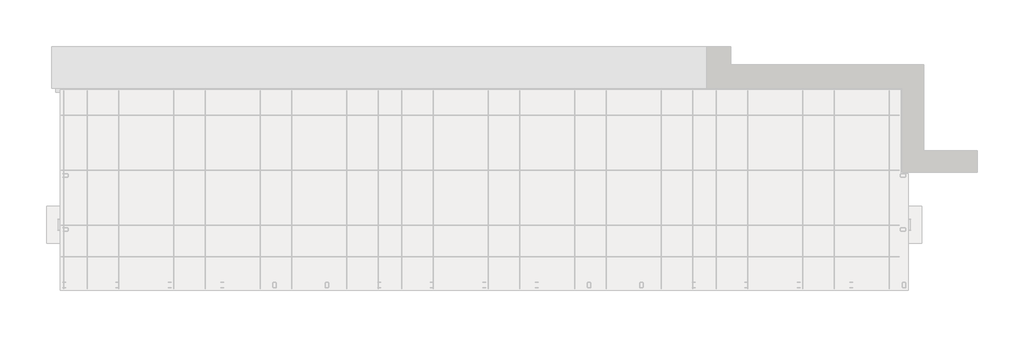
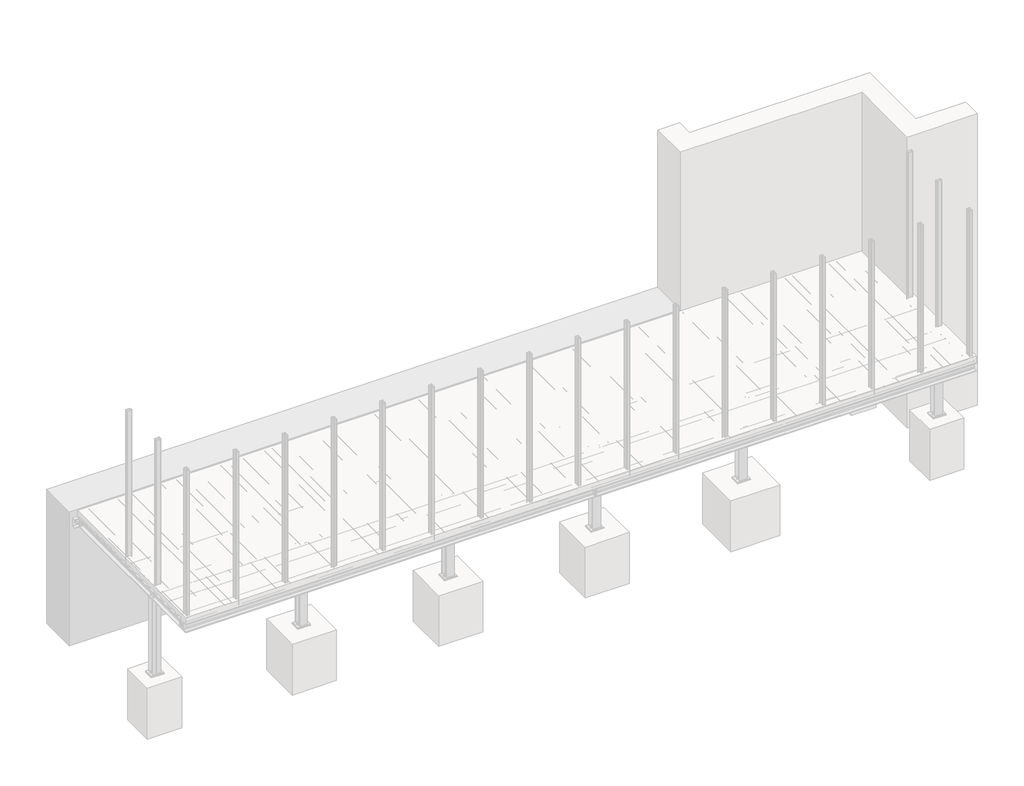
# One storey, part 29 of 36: 29 assemblies.
"""IFC4 building model written with IfcOpenShell, lengths in millimetres."""

import ifcopenshell
import ifcopenshell.guid

model = None  # the IFC model being written
_history = None  # IfcOwnerHistory: only IFC2X3 demands one
_inside = {}  # id of a spatial element -> (the spatial element, [elements in it])
_under = {}  # id of a project, library or spatial element -> (it, [spatial elements below it])
_declared = {}  # id of a project -> (the project, [libraries it declares])
_typed = {}  # id of a type object -> (the type object, [elements of that type])
_made_of = {}  # id of a material, layer set ... -> (it, [elements and type objects made of it])


def new_model(schema):
    """Start an empty IFC model of exactly this schema.

    Asked for "IFC4X3", IfcOpenShell would pick the latest addendum, in which some entities
    have other attributes; the version numbers below select the first issue.
    IFC2X3 requires an IfcOwnerHistory on every rooted entity: one is made here for all.
    """
    global model, _history
    if schema == "IFC4X3":
        model = ifcopenshell.file(schema_version=(4, 3, 0, 0))
    else:
        model = ifcopenshell.file(schema=schema)
    _inside.clear()
    _under.clear()
    _declared.clear()
    _typed.clear()
    _made_of.clear()
    _history = None
    if model.schema == "IFC2X3":
        org = make("IfcOrganization", Name="unknown")
        user = make(
            "IfcPersonAndOrganization",
            ThePerson=make("IfcPerson", FamilyName="unknown"),
            TheOrganization=org,
        )
        app = make(
            "IfcApplication",
            ApplicationDeveloper=org,
            Version="unknown",
            ApplicationFullName="unknown",
            ApplicationIdentifier="unknown",
        )
        _history = make(
            "IfcOwnerHistory",
            OwningUser=user,
            OwningApplication=app,
            ChangeAction="ADDED",
            CreationDate=0,
        )
    return model


def make(cls, **values):
    """One entity of the class cls with the attributes given. An attribute that is None is left unset."""
    return model.create_entity(
        cls, **{name: value for name, value in values.items() if value is not None}
    )


def rooted(cls, **values):
    """An entity with a GlobalId (a new one), such as an element, a storey or a relation."""
    return make(cls, GlobalId=ifcopenshell.guid.new(), OwnerHistory=_history, **values)


def si_unit(unit_type, name, prefix=None):
    """IfcSIUnit, for example si_unit("LENGTHUNIT", "METRE", prefix="MILLI")."""
    return make("IfcSIUnit", UnitType=unit_type, Prefix=prefix, Name=name)


def assignment(units):
    """IfcUnitAssignment: the units of a project."""
    return None if units is None else make("IfcUnitAssignment", Units=units)


def point(xyz):
    """IfcCartesianPoint."""
    return None if xyz is None else make("IfcCartesianPoint", Coordinates=xyz)


def direction(xyz):
    """IfcDirection."""
    return None if xyz is None else make("IfcDirection", DirectionRatios=xyz)


def frame(location, z_axis=None, x_axis=None):
    """IfcAxis2Placement3D, a coordinate frame: its origin and axes. An axis left out is left unset."""
    return make(
        "IfcAxis2Placement3D",
        Location=point(location),
        Axis=direction(z_axis),
        RefDirection=direction(x_axis),
    )


def frame_2d(location, x_axis=None):
    """IfcAxis2Placement2D, a coordinate frame in the plane: its origin and x axis."""
    return make(
        "IfcAxis2Placement2D", Location=point(location), RefDirection=direction(x_axis)
    )


def origin():
    """The frame at (0, 0, 0) with its axes left unset."""
    return frame((0.0, 0.0, 0.0))


def place(relative_to, where):
    """IfcLocalPlacement: puts the frame where relative to a parent placement (None: the world)."""
    return make(
        "IfcLocalPlacement", PlacementRelTo=relative_to, RelativePlacement=where
    )


def context(
    kind, dimensions, precision=None, world=None, true_north=None, identifier=None
):
    """IfcGeometricRepresentationContext, for example the 3D "Model" context."""
    return make(
        "IfcGeometricRepresentationContext",
        ContextIdentifier=identifier,
        ContextType=kind,
        CoordinateSpaceDimension=dimensions,
        Precision=precision,
        WorldCoordinateSystem=world,
        TrueNorth=true_north,
    )


def project(units=None, contexts=None):
    """IfcProject with its units and contexts."""
    return rooted(
        "IfcProject",
        Name="project",
        RepresentationContexts=contexts,
        UnitsInContext=assignment(units),
    )


def spatial(cls, under=None, at=None, **own):
    """A site, building, storey or space (cls), placed at a placement, below another one or the project."""
    s = rooted(cls, ObjectPlacement=at, **own)
    if under is not None:
        _under.setdefault(under.id(), (under, []))[1].append(s)
    return s


def polyline(points):
    """IfcPolyline through the points."""
    return make("IfcPolyline", Points=[point(p) for p in points])


def circle_curve(where, radius):
    """IfcCircle in the frame where."""
    return make("IfcCircle", Position=where, Radius=radius)


def trimmed(basis, trim1, trim2, sense, master):
    """IfcTrimmedCurve: the piece of a basis curve between two trims."""
    return make(
        "IfcTrimmedCurve",
        BasisCurve=basis,
        Trim1=trim1,
        Trim2=trim2,
        SenseAgreement=sense,
        MasterRepresentation=master,
    )


def segment(curve, same_sense, transition):
    """IfcCompositeCurveSegment."""
    return make(
        "IfcCompositeCurveSegment",
        Transition=transition,
        SameSense=same_sense,
        ParentCurve=curve,
    )


def composite_curve(segments, self_intersect=None):
    """IfcCompositeCurve: segments joined end to end."""
    return make("IfcCompositeCurve", Segments=segments, SelfIntersect=self_intersect)


def outline(outer, holes=None, kind="AREA"):
    """IfcArbitraryClosedProfileDef: a profile drawn as a closed curve; with holes, ...WithVoids."""
    if holes is None:
        return make("IfcArbitraryClosedProfileDef", ProfileType=kind, OuterCurve=outer)
    return make(
        "IfcArbitraryProfileDefWithVoids",
        ProfileType=kind,
        OuterCurve=outer,
        InnerCurves=holes,
    )


def extrude(swept, where, along, depth):
    """IfcExtrudedAreaSolid: the profile swept, set in the frame where, extruded along a direction by depth."""
    return make(
        "IfcExtrudedAreaSolid",
        SweptArea=swept,
        Position=where,
        ExtrudedDirection=direction(along),
        Depth=depth,
    )


def faces_of(points, faces, orient=None, outer=None):
    """IfcFace entities. A face is a list of loops; a loop is a list of indices into points, from 0.

    orient and outer hold one flag for each loop. By default every Orientation is true, the
    first loop of a face is its IfcFaceOuterBound and the others are IfcFaceBound.
    """
    made = []
    for i, loops in enumerate(faces):
        bounds = []
        for j, loop in enumerate(loops):
            is_outer = j == 0 if outer is None else outer[i][j]
            bounds.append(
                make(
                    "IfcFaceOuterBound" if is_outer else "IfcFaceBound",
                    Bound=make("IfcPolyLoop", Polygon=[points[k] for k in loop]),
                    Orientation=True if orient is None else orient[i][j],
                )
            )
        made.append(make("IfcFace", Bounds=bounds))
    return made


def faceted_brep(points, faces, orient=None, outer=None, voids=None):
    """IfcFacetedBrep: a solid bounded by flat faces; with voids (closed shells), ...WithVoids."""
    shared = [point(p) for p in points]
    hull = make("IfcClosedShell", CfsFaces=faces_of(shared, faces, orient, outer))
    if voids is None:
        return make("IfcFacetedBrep", Outer=hull)
    return make(
        "IfcFacetedBrepWithVoids",
        Outer=hull,
        Voids=[
            make(cls, CfsFaces=faces_of(shared, fs, o, b)) for cls, fs, o, b in voids
        ],
    )


def shape(context_of_items, identifier, shape_type, items):
    """IfcShapeRepresentation: the items that make up one representation, for example the "Body"."""
    return make(
        "IfcShapeRepresentation",
        ContextOfItems=context_of_items,
        RepresentationIdentifier=identifier,
        RepresentationType=shape_type,
        Items=items,
    )


def made_of(thing, what):
    """Note that an element or type object is made of a material, layer set ...; save() writes the relation."""
    if what is not None:
        _made_of.setdefault(what.id(), (what, []))[1].append(thing)
    return thing


def element(
    cls,
    number,
    at=None,
    inside=None,
    cuts=None,
    type_object=None,
    material=None,
    context=None,
    identifier="Body",
    shape_type=None,
    held_by="IfcProductDefinitionShape",
    body=None,
    shapes=None,
    **own,
):
    """One element of the class cls, such as IfcWall. Its Tag is "e" and its number.

    at: its placement. inside: the storey or other place that contains it. cuts: it is an
    opening in that element (IfcRelVoidsElement). A single representation is given by context,
    identifier, shape_type and body (its items); several are given by shapes. held_by: the class
    of the entity that holds the representations. save() writes the other relations.
    """
    e = rooted(cls, Tag="e%d" % number, ObjectPlacement=at, **own)
    if body is not None:
        shapes = [shape(context, identifier, shape_type, body)]
    if shapes is not None:
        e.Representation = make(held_by, Representations=shapes)
    if inside is not None:
        _inside.setdefault(inside.id(), (inside, []))[1].append(e)
    if cuts is not None:
        rooted(
            "IfcRelVoidsElement", RelatingBuildingElement=cuts, RelatedOpeningElement=e
        )
    if type_object is not None:
        _typed.setdefault(type_object.id(), (type_object, []))[1].append(e)
    return made_of(e, material)


def aggregate(whole, parts):
    """IfcRelAggregates: a whole, such as a stair, and the parts it consists of."""
    return rooted("IfcRelAggregates", RelatingObject=whole, RelatedObjects=parts)


def save(model, path):
    """Write the relations noted so far, then the file.

    IfcRelAggregates (storeys below a building ...), IfcRelContainedInSpatialStructure (elements
    in a storey), IfcRelDefinesByType, IfcRelAssociatesMaterial and IfcRelDeclares: one each for
    every whole, place, type object, material and project.
    """
    for whole, parts in _under.values():
        aggregate(whole, parts)
    for where, things in _inside.values():
        rooted(
            "IfcRelContainedInSpatialStructure",
            RelatedElements=things,
            RelatingStructure=where,
        )
    for kind, things in _typed.values():
        rooted("IfcRelDefinesByType", RelatedObjects=things, RelatingType=kind)
    for what, things in _made_of.values():
        rooted("IfcRelAssociatesMaterial", RelatedObjects=things, RelatingMaterial=what)
    for by, libraries in _declared.values():
        rooted("IfcRelDeclares", RelatingContext=by, RelatedDefinitions=libraries)
    model.write(path)


model = new_model("IFC4")

# Units and contexts
model_context = context("Model", 3, world=origin())
ifc_project = project(units=[si_unit("LENGTHUNIT", "METRE", prefix="MILLI")], contexts=[model_context])

# Site, building, storey
site = spatial("IfcSite", under=ifc_project)
building = spatial("IfcBuilding", under=site)
storey = spatial("IfcBuildingStorey", under=building, Name="Základy", Elevation=-1200.0)

# Assemblies
placement = place(None, origin())
element("IfcElementAssembly", 1, at=placement, inside=storey, context=model_context, shape_type="SweptSolid", body=[
    extrude(outline(composite_curve([segment(polyline([(11073.6, 60.0), (11026.4, 60.0)]), True, "CONTINUOUS"), segment(trimmed(circle_curve(frame_2d((11026.4, 66.4)), 6.4), [point((11026.4, 60.0))], [point((11020.0, 66.4))], False, "CARTESIAN"), True, "CONTINUOUS"), segment(polyline([(11020.0, 66.4), (11020.0, 153.6)]), True, "CONTINUOUS"), segment(trimmed(circle_curve(frame_2d((11026.4, 153.6)), 6.4), [point((11020.0, 153.6))], [point((11026.4, 160.0))], False, "CARTESIAN"), True, "CONTINUOUS"), segment(polyline([(11026.4, 160.0), (11073.6, 160.0)]), True, "CONTINUOUS"), segment(trimmed(circle_curve(frame_2d((11073.6, 153.6)), 6.4), [point((11073.6, 160.0))], [point((11080.0, 153.6))], False, "CARTESIAN"), True, "CONTINUOUS"), segment(polyline([(11080.0, 153.6), (11080.0, 66.4)]), True, "CONTINUOUS"), segment(trimmed(circle_curve(frame_2d((11073.6, 66.4)), 6.4), [point((11080.0, 66.4))], [point((11073.6, 60.0))], False, "CARTESIAN"), True, "CONTINUOUS")], self_intersect=False), holes=[composite_curve([segment(trimmed(circle_curve(frame_2d((11073.6, 66.4)), 3.2), [point((11073.6, 63.2))], [point((11076.8, 66.4))], True, "CARTESIAN"), True, "CONTINUOUS"), segment(polyline([(11076.8, 66.4), (11076.8, 153.6)]), True, "CONTINUOUS"), segment(trimmed(circle_curve(frame_2d((11073.6, 153.6)), 3.2), [point((11076.8, 153.6))], [point((11073.6, 156.8))], True, "CARTESIAN"), True, "CONTINUOUS"), segment(polyline([(11073.6, 156.8), (11026.4, 156.8)]), True, "CONTINUOUS"), segment(trimmed(circle_curve(frame_2d((11026.4, 153.6)), 3.2), [point((11026.4, 156.8))], [point((11023.2, 153.6))], True, "CARTESIAN"), True, "CONTINUOUS"), segment(polyline([(11023.2, 153.6), (11023.2, 66.4)]), True, "CONTINUOUS"), segment(trimmed(circle_curve(frame_2d((11026.4, 66.4)), 3.2), [point((11023.2, 66.4))], [point((11026.4, 63.2))], True, "CARTESIAN"), True, "CONTINUOUS"), segment(polyline([(11026.4, 63.2), (11073.6, 63.2)]), True, "CONTINUOUS")], self_intersect=False)]), frame((0.0, 0.0, -160.0), z_axis=(0.0, 0.0, 1.0), x_axis=(1.0, 0.0, 0.0)), (0.0, 0.0, 1.0), 3320.0),
])
element("IfcElementAssembly", 2, at=placement, inside=storey, context=model_context, shape_type="SweptSolid", body=[
    extrude(outline(composite_curve([segment(polyline([(10073.6, 60.0), (10026.4, 60.0)]), True, "CONTINUOUS"), segment(trimmed(circle_curve(frame_2d((10026.4, 66.4)), 6.4), [point((10026.4, 60.0))], [point((10020.0, 66.4))], False, "CARTESIAN"), True, "CONTINUOUS"), segment(polyline([(10020.0, 66.4), (10020.0, 153.6)]), True, "CONTINUOUS"), segment(trimmed(circle_curve(frame_2d((10026.4, 153.6)), 6.4), [point((10020.0, 153.6))], [point((10026.4, 160.0))], False, "CARTESIAN"), True, "CONTINUOUS"), segment(polyline([(10026.4, 160.0), (10073.6, 160.0)]), True, "CONTINUOUS"), segment(trimmed(circle_curve(frame_2d((10073.6, 153.6)), 6.4), [point((10073.6, 160.0))], [point((10080.0, 153.6))], False, "CARTESIAN"), True, "CONTINUOUS"), segment(polyline([(10080.0, 153.6), (10080.0, 66.4)]), True, "CONTINUOUS"), segment(trimmed(circle_curve(frame_2d((10073.6, 66.4)), 6.4), [point((10080.0, 66.4))], [point((10073.6, 60.0))], False, "CARTESIAN"), True, "CONTINUOUS")], self_intersect=False), holes=[composite_curve([segment(trimmed(circle_curve(frame_2d((10073.6, 66.4)), 3.2), [point((10073.6, 63.2))], [point((10076.8, 66.4))], True, "CARTESIAN"), True, "CONTINUOUS"), segment(polyline([(10076.8, 66.4), (10076.8, 153.6)]), True, "CONTINUOUS"), segment(trimmed(circle_curve(frame_2d((10073.6, 153.6)), 3.2), [point((10076.8, 153.6))], [point((10073.6, 156.8))], True, "CARTESIAN"), True, "CONTINUOUS"), segment(polyline([(10073.6, 156.8), (10026.4, 156.8)]), True, "CONTINUOUS"), segment(trimmed(circle_curve(frame_2d((10026.4, 153.6)), 3.2), [point((10026.4, 156.8))], [point((10023.2, 153.6))], True, "CARTESIAN"), True, "CONTINUOUS"), segment(polyline([(10023.2, 153.6), (10023.2, 66.4)]), True, "CONTINUOUS"), segment(trimmed(circle_curve(frame_2d((10026.4, 66.4)), 3.2), [point((10023.2, 66.4))], [point((10026.4, 63.2))], True, "CARTESIAN"), True, "CONTINUOUS"), segment(polyline([(10026.4, 63.2), (10073.6, 63.2)]), True, "CONTINUOUS")], self_intersect=False)]), frame((0.0, 0.0, -160.0), z_axis=(0.0, 0.0, 1.0), x_axis=(1.0, 0.0, 0.0)), (0.0, 0.0, 1.0), 3320.0),
])
element("IfcElementAssembly", 3, at=placement, inside=storey, context=model_context, shape_type="SweptSolid", body=[
    extrude(outline(composite_curve([segment(polyline([(1200.0, -193.0), (1320.0, -193.0), (1320.0, -201.0), (1274.5, -201.0)]), True, "CONTINUOUS"), segment(trimmed(circle_curve(frame_2d((1274.5, -213.0)), 12.0), [point((1274.5, -201.0))], [point((1262.5, -213.0))], True, "CARTESIAN"), True, "CONTINUOUS"), segment(polyline([(1262.5, -213.0), (1262.5, -287.0)]), True, "CONTINUOUS"), segment(trimmed(circle_curve(frame_2d((1274.5, -287.0)), 12.0), [point((1262.5, -287.0))], [point((1274.5, -299.0))], True, "CARTESIAN"), True, "CONTINUOUS"), segment(polyline([(1274.5, -299.0), (1320.0, -299.0), (1320.0, -307.0), (1200.0, -307.0), (1200.0, -299.0), (1245.5, -299.0)]), True, "CONTINUOUS"), segment(trimmed(circle_curve(frame_2d((1245.5, -287.0)), 12.0), [point((1245.5, -299.0))], [point((1257.5, -287.0))], True, "CARTESIAN"), True, "CONTINUOUS"), segment(polyline([(1257.5, -287.0), (1257.5, -213.0)]), True, "CONTINUOUS"), segment(trimmed(circle_curve(frame_2d((1245.5, -213.0)), 12.0), [point((1257.5, -213.0))], [point((1245.5, -201.0))], True, "CARTESIAN"), True, "CONTINUOUS"), segment(polyline([(1245.5, -201.0), (1200.0, -201.0), (1200.0, -193.0)]), True, "CONTINUOUS")], self_intersect=False)), frame((9160.0, 0.0, 0.0), z_axis=(1.0, 0.0, 0.0), x_axis=(0.0, 1.0, 0.0)), (0.0, 0.0, 1.0), 2780.0),
    extrude(outline(polyline([(11940.0, 1200.0), (11940.0, 1320.0), (11950.0, 1320.0), (11950.0, 1200.0), (11940.0, 1200.0)])), frame((0.0, 0.0, -299.0), z_axis=(0.0, 0.0, 1.0), x_axis=(1.0, 0.0, 0.0)), (0.0, 0.0, 1.0), 98.0),
    extrude(outline(polyline([(9150.0, 1200.0), (9150.0, 1320.0), (9160.0, 1320.0), (9160.0, 1200.0), (9150.0, 1200.0)])), frame((0.0, 0.0, -299.0), z_axis=(0.0, 0.0, 1.0), x_axis=(1.0, 0.0, 0.0)), (0.0, 0.0, 1.0), 98.0),
])
element("IfcElementAssembly", 4, at=placement, inside=storey, context=model_context, shape_type="SweptSolid", body=[
    extrude(outline(composite_curve([segment(polyline([(9130.0, 1184.0), (8970.0, 1184.0), (8970.0, 1193.0), (9032.0, 1193.0)]), True, "CONTINUOUS"), segment(trimmed(circle_curve(frame_2d((9032.0, 1208.0)), 15.0), [point((9032.0, 1193.0))], [point((9047.0, 1208.0))], True, "CARTESIAN"), True, "CONTINUOUS"), segment(polyline([(9047.0, 1208.0), (9047.0, 1312.0)]), True, "CONTINUOUS"), segment(trimmed(circle_curve(frame_2d((9032.0, 1312.0)), 15.0), [point((9047.0, 1312.0))], [point((9032.0, 1327.0))], True, "CARTESIAN"), True, "CONTINUOUS"), segment(polyline([(9032.0, 1327.0), (8970.0, 1327.0), (8970.0, 1336.0), (9130.0, 1336.0), (9130.0, 1327.0), (9068.0, 1327.0)]), True, "CONTINUOUS"), segment(trimmed(circle_curve(frame_2d((9068.0, 1312.0)), 15.0), [point((9068.0, 1327.0))], [point((9053.0, 1312.0))], True, "CARTESIAN"), True, "CONTINUOUS"), segment(polyline([(9053.0, 1312.0), (9053.0, 1208.0)]), True, "CONTINUOUS"), segment(trimmed(circle_curve(frame_2d((9068.0, 1208.0)), 15.0), [point((9053.0, 1208.0))], [point((9068.0, 1193.0))], True, "CARTESIAN"), True, "CONTINUOUS"), segment(polyline([(9068.0, 1193.0), (9130.0, 1193.0), (9130.0, 1184.0)]), True, "CONTINUOUS")], self_intersect=False)), frame((0.0, 0.0, -1975.0), z_axis=(0.0, 0.0, 1.0), x_axis=(1.0, 0.0, 0.0)), (0.0, 0.0, 1.0), 1625.0),
    extrude(outline(polyline([(9175.0, 1356.0), (9175.0, 1164.0), (8925.0, 1164.0), (8925.0, 1356.0), (9175.0, 1356.0)])), frame((0.0, 0.0, -1990.0), z_axis=(0.0, 0.0, 1.0), x_axis=(1.0, 0.0, 0.0)), (0.0, 0.0, 1.0), 15.0),
    extrude(outline(polyline([(9140.0, 1346.0), (9140.0, 1174.0), (8960.0, 1174.0), (8960.0, 1346.0), (9140.0, 1346.0)])), frame((0.0, 0.0, -350.0), z_axis=(0.0, 0.0, 1.0), x_axis=(1.0, 0.0, 0.0)), (0.0, 0.0, 1.0), 10.0),
    extrude(outline(polyline([(8982.7364934, 1260.0), (8978.8682467, 1253.3000002), (8971.1317533, 1253.3000002), (8967.2635066, 1260.0), (8971.1317533, 1266.6999998), (8978.8682467, 1266.6999998), (8982.7364934, 1260.0)])), frame((0.0, 0.0, -2122.0), z_axis=(0.0, 0.0, 1.0), x_axis=(1.0, 0.0, 0.0)), (0.0, 0.0, 1.0), 132.0),
    extrude(outline(composite_curve([segment(trimmed(circle_curve(frame_2d((8975.0, 1260.0)), 8.0), [point((8983.0, 1260.0))], [point((8967.0, 1260.0))], False, "CARTESIAN"), True, "CONTINUOUS"), segment(trimmed(circle_curve(frame_2d((8975.0, 1260.0)), 8.0), [point((8967.0, 1260.0))], [point((8983.0, 1260.0))], False, "CARTESIAN"), True, "CONTINUOUS")], self_intersect=False)), frame((0.0, 0.0, -1990.0), z_axis=(0.0, 0.0, 1.0), x_axis=(1.0, 0.0, 0.0)), (0.0, 0.0, 1.0), 58.0),
    extrude(outline(composite_curve([segment(trimmed(circle_curve(frame_2d((8975.0, 1260.0)), 15.0), [point((8990.0, 1260.0))], [point((8960.0, 1260.0))], False, "CARTESIAN"), True, "CONTINUOUS"), segment(trimmed(circle_curve(frame_2d((8975.0, 1260.0)), 15.0), [point((8960.0, 1260.0))], [point((8990.0, 1260.0))], False, "CARTESIAN"), True, "CONTINUOUS")], self_intersect=False)), frame((0.0, 0.0, -1975.0), z_axis=(0.0, 0.0, 1.0), x_axis=(1.0, 0.0, 0.0)), (0.0, 0.0, 1.0), 3.0),
    extrude(outline(polyline([(8990.4441197, 1260.0), (8982.7220599, 1246.625), (8967.2779401, 1246.625), (8959.5558803, 1260.0), (8967.2779401, 1273.375), (8982.7220599, 1273.375), (8990.4441197, 1260.0)])), frame((0.0, 0.0, -1972.0), z_axis=(0.0, 0.0, 1.0), x_axis=(1.0, 0.0, 0.0)), (0.0, 0.0, 1.0), 13.0),
    extrude(outline(composite_curve([segment(trimmed(circle_curve(frame_2d((8975.0, 1260.0)), 9.0), [point((8984.0, 1260.0))], [point((8966.0, 1260.0))], False, "CARTESIAN"), True, "CONTINUOUS"), segment(trimmed(circle_curve(frame_2d((8975.0, 1260.0)), 9.0), [point((8966.0, 1260.0))], [point((8984.0, 1260.0))], False, "CARTESIAN"), True, "CONTINUOUS")], self_intersect=False)), frame((0.0, 0.0, -1990.0), z_axis=(0.0, 0.0, 1.0), x_axis=(1.0, 0.0, 0.0)), (0.0, 0.0, 1.0), 15.1),
    extrude(outline(polyline([(9132.7364934, 1260.0), (9128.8682467, 1253.3000002), (9121.1317533, 1253.3000002), (9117.2635066, 1260.0), (9121.1317533, 1266.6999998), (9128.8682467, 1266.6999998), (9132.7364934, 1260.0)])), frame((0.0, 0.0, -2122.0), z_axis=(0.0, 0.0, 1.0), x_axis=(1.0, 0.0, 0.0)), (0.0, 0.0, 1.0), 132.0),
    extrude(outline(composite_curve([segment(trimmed(circle_curve(frame_2d((9125.0, 1260.0)), 8.0), [point((9133.0, 1260.0))], [point((9117.0, 1260.0))], False, "CARTESIAN"), True, "CONTINUOUS"), segment(trimmed(circle_curve(frame_2d((9125.0, 1260.0)), 8.0), [point((9117.0, 1260.0))], [point((9133.0, 1260.0))], False, "CARTESIAN"), True, "CONTINUOUS")], self_intersect=False)), frame((0.0, 0.0, -1990.0), z_axis=(0.0, 0.0, 1.0), x_axis=(1.0, 0.0, 0.0)), (0.0, 0.0, 1.0), 58.0),
    extrude(outline(composite_curve([segment(trimmed(circle_curve(frame_2d((9125.0, 1260.0)), 15.0), [point((9140.0, 1260.0))], [point((9110.0, 1260.0))], False, "CARTESIAN"), True, "CONTINUOUS"), segment(trimmed(circle_curve(frame_2d((9125.0, 1260.0)), 15.0), [point((9110.0, 1260.0))], [point((9140.0, 1260.0))], False, "CARTESIAN"), True, "CONTINUOUS")], self_intersect=False)), frame((0.0, 0.0, -1975.0), z_axis=(0.0, 0.0, 1.0), x_axis=(1.0, 0.0, 0.0)), (0.0, 0.0, 1.0), 3.0),
    extrude(outline(polyline([(9140.4441197, 1260.0), (9132.7220599, 1246.625), (9117.2779401, 1246.625), (9109.5558803, 1260.0), (9117.2779401, 1273.375), (9132.7220599, 1273.375), (9140.4441197, 1260.0)])), frame((0.0, 0.0, -1972.0), z_axis=(0.0, 0.0, 1.0), x_axis=(1.0, 0.0, 0.0)), (0.0, 0.0, 1.0), 13.0),
    extrude(outline(composite_curve([segment(trimmed(circle_curve(frame_2d((9125.0, 1260.0)), 9.0), [point((9134.0, 1260.0))], [point((9116.0, 1260.0))], False, "CARTESIAN"), True, "CONTINUOUS"), segment(trimmed(circle_curve(frame_2d((9125.0, 1260.0)), 9.0), [point((9116.0, 1260.0))], [point((9134.0, 1260.0))], False, "CARTESIAN"), True, "CONTINUOUS")], self_intersect=False)), frame((0.0, 0.0, -1990.0), z_axis=(0.0, 0.0, 1.0), x_axis=(1.0, 0.0, 0.0)), (0.0, 0.0, 1.0), 15.1),
    extrude(outline(composite_curve([segment(trimmed(circle_curve(frame_2d((9000.0, 1220.0)), 6.5), [point((9006.5, 1220.0))], [point((8993.5, 1220.0))], False, "CARTESIAN"), True, "CONTINUOUS"), segment(trimmed(circle_curve(frame_2d((9000.0, 1220.0)), 6.5), [point((8993.5, 1220.0))], [point((9006.5, 1220.0))], False, "CARTESIAN"), True, "CONTINUOUS")], self_intersect=False)), frame((0.0, 0.0, -350.0), z_axis=(0.0, 0.0, 1.0), x_axis=(1.0, 0.0, 0.0)), (0.0, 0.0, 1.0), 10.1),
    extrude(outline(polyline([(9010.3923048, 1220.0), (9005.1961524, 1211.0), (8994.8038476, 1211.0), (8989.6076952, 1220.0), (8994.8038476, 1229.0), (9005.1961524, 1229.0), (9010.3923048, 1220.0)])), frame((0.0, 0.0, -323.5), z_axis=(0.0, 0.0, 1.0), x_axis=(1.0, 0.0, 0.0)), (0.0, 0.0, 1.0), 7.5),
    extrude(outline(composite_curve([segment(trimmed(circle_curve(frame_2d((9000.0, 1220.0)), 6.0), [point((9006.0, 1220.0))], [point((8994.0, 1220.0))], False, "CARTESIAN"), True, "CONTINUOUS"), segment(trimmed(circle_curve(frame_2d((9000.0, 1220.0)), 6.0), [point((8994.0, 1220.0))], [point((9006.0, 1220.0))], False, "CARTESIAN"), True, "CONTINUOUS")], self_intersect=False)), frame((0.0, 0.0, -368.5), z_axis=(0.0, 0.0, 1.0), x_axis=(1.0, 0.0, 0.0)), (0.0, 0.0, 1.0), 45.0),
    extrude(outline(composite_curve([segment(trimmed(circle_curve(frame_2d((9000.0, 1220.0)), 12.0), [point((9012.0, 1220.0))], [point((8988.0, 1220.0))], False, "CARTESIAN"), True, "CONTINUOUS"), segment(trimmed(circle_curve(frame_2d((9000.0, 1220.0)), 12.0), [point((8988.0, 1220.0))], [point((9012.0, 1220.0))], False, "CARTESIAN"), True, "CONTINUOUS")], self_intersect=False)), frame((0.0, 0.0, -326.0), z_axis=(0.0, 0.0, 1.0), x_axis=(1.0, 0.0, 0.0)), (0.0, 0.0, 1.0), 2.5),
    extrude(outline(composite_curve([segment(trimmed(circle_curve(frame_2d((9000.0, 1220.0)), 12.0), [point((9012.0, 1220.0))], [point((8988.0, 1220.0))], False, "CARTESIAN"), True, "CONTINUOUS"), segment(trimmed(circle_curve(frame_2d((9000.0, 1220.0)), 12.0), [point((8988.0, 1220.0))], [point((9012.0, 1220.0))], False, "CARTESIAN"), True, "CONTINUOUS")], self_intersect=False)), frame((0.0, 0.0, -352.5), z_axis=(0.0, 0.0, 1.0), x_axis=(1.0, 0.0, 0.0)), (0.0, 0.0, 1.0), 2.5),
    extrude(outline(polyline([(9010.9696551, 1220.0), (9005.4848276, 1210.5), (8994.5151724, 1210.5), (8989.0303449, 1220.0), (8994.5151724, 1229.5), (9005.4848276, 1229.5), (9010.9696551, 1220.0)])), frame((0.0, 0.0, -362.5), z_axis=(0.0, 0.0, 1.0), x_axis=(1.0, 0.0, 0.0)), (0.0, 0.0, 1.0), 10.0),
    extrude(outline(composite_curve([segment(trimmed(circle_curve(frame_2d((9000.0, 1220.0)), 6.5), [point((9006.5, 1220.0))], [point((8993.5, 1220.0))], False, "CARTESIAN"), True, "CONTINUOUS"), segment(trimmed(circle_curve(frame_2d((9000.0, 1220.0)), 6.5), [point((8993.5, 1220.0))], [point((9006.5, 1220.0))], False, "CARTESIAN"), True, "CONTINUOUS")], self_intersect=False)), frame((0.0, 0.0, -340.1), z_axis=(0.0, 0.0, 1.0), x_axis=(1.0, 0.0, 0.0)), (0.0, 0.0, 1.0), 14.0),
    extrude(outline(composite_curve([segment(trimmed(circle_curve(frame_2d((9100.0, 1220.0)), 6.5), [point((9106.5, 1220.0))], [point((9093.5, 1220.0))], False, "CARTESIAN"), True, "CONTINUOUS"), segment(trimmed(circle_curve(frame_2d((9100.0, 1220.0)), 6.5), [point((9093.5, 1220.0))], [point((9106.5, 1220.0))], False, "CARTESIAN"), True, "CONTINUOUS")], self_intersect=False)), frame((0.0, 0.0, -350.0), z_axis=(0.0, 0.0, 1.0), x_axis=(1.0, 0.0, 0.0)), (0.0, 0.0, 1.0), 10.1),
    extrude(outline(polyline([(9110.3923048, 1220.0), (9105.1961524, 1211.0), (9094.8038476, 1211.0), (9089.6076952, 1220.0), (9094.8038476, 1229.0), (9105.1961524, 1229.0), (9110.3923048, 1220.0)])), frame((0.0, 0.0, -323.5), z_axis=(0.0, 0.0, 1.0), x_axis=(1.0, 0.0, 0.0)), (0.0, 0.0, 1.0), 7.5),
    extrude(outline(composite_curve([segment(trimmed(circle_curve(frame_2d((9100.0, 1220.0)), 6.0), [point((9106.0, 1220.0))], [point((9094.0, 1220.0))], False, "CARTESIAN"), True, "CONTINUOUS"), segment(trimmed(circle_curve(frame_2d((9100.0, 1220.0)), 6.0), [point((9094.0, 1220.0))], [point((9106.0, 1220.0))], False, "CARTESIAN"), True, "CONTINUOUS")], self_intersect=False)), frame((0.0, 0.0, -368.5), z_axis=(0.0, 0.0, 1.0), x_axis=(1.0, 0.0, 0.0)), (0.0, 0.0, 1.0), 45.0),
    extrude(outline(composite_curve([segment(trimmed(circle_curve(frame_2d((9100.0, 1220.0)), 12.0), [point((9112.0, 1220.0))], [point((9088.0, 1220.0))], False, "CARTESIAN"), True, "CONTINUOUS"), segment(trimmed(circle_curve(frame_2d((9100.0, 1220.0)), 12.0), [point((9088.0, 1220.0))], [point((9112.0, 1220.0))], False, "CARTESIAN"), True, "CONTINUOUS")], self_intersect=False)), frame((0.0, 0.0, -326.0), z_axis=(0.0, 0.0, 1.0), x_axis=(1.0, 0.0, 0.0)), (0.0, 0.0, 1.0), 2.5),
    extrude(outline(composite_curve([segment(trimmed(circle_curve(frame_2d((9100.0, 1220.0)), 12.0), [point((9112.0, 1220.0))], [point((9088.0, 1220.0))], False, "CARTESIAN"), True, "CONTINUOUS"), segment(trimmed(circle_curve(frame_2d((9100.0, 1220.0)), 12.0), [point((9088.0, 1220.0))], [point((9112.0, 1220.0))], False, "CARTESIAN"), True, "CONTINUOUS")], self_intersect=False)), frame((0.0, 0.0, -352.5), z_axis=(0.0, 0.0, 1.0), x_axis=(1.0, 0.0, 0.0)), (0.0, 0.0, 1.0), 2.5),
    extrude(outline(polyline([(9110.9696551, 1220.0), (9105.4848276, 1210.5), (9094.5151724, 1210.5), (9089.0303449, 1220.0), (9094.5151724, 1229.5), (9105.4848276, 1229.5), (9110.9696551, 1220.0)])), frame((0.0, 0.0, -362.5), z_axis=(0.0, 0.0, 1.0), x_axis=(1.0, 0.0, 0.0)), (0.0, 0.0, 1.0), 10.0),
    extrude(outline(composite_curve([segment(trimmed(circle_curve(frame_2d((9100.0, 1220.0)), 6.5), [point((9106.5, 1220.0))], [point((9093.5, 1220.0))], False, "CARTESIAN"), True, "CONTINUOUS"), segment(trimmed(circle_curve(frame_2d((9100.0, 1220.0)), 6.5), [point((9093.5, 1220.0))], [point((9106.5, 1220.0))], False, "CARTESIAN"), True, "CONTINUOUS")], self_intersect=False)), frame((0.0, 0.0, -340.1), z_axis=(0.0, 0.0, 1.0), x_axis=(1.0, 0.0, 0.0)), (0.0, 0.0, 1.0), 14.0),
    extrude(outline(composite_curve([segment(trimmed(circle_curve(frame_2d((9000.0, 1300.0)), 6.5), [point((9006.5, 1300.0))], [point((8993.5, 1300.0))], False, "CARTESIAN"), True, "CONTINUOUS"), segment(trimmed(circle_curve(frame_2d((9000.0, 1300.0)), 6.5), [point((8993.5, 1300.0))], [point((9006.5, 1300.0))], False, "CARTESIAN"), True, "CONTINUOUS")], self_intersect=False)), frame((0.0, 0.0, -350.0), z_axis=(0.0, 0.0, 1.0), x_axis=(1.0, 0.0, 0.0)), (0.0, 0.0, 1.0), 10.1),
    extrude(outline(polyline([(9010.3923048, 1300.0), (9005.1961524, 1291.0), (8994.8038476, 1291.0), (8989.6076952, 1300.0), (8994.8038476, 1309.0), (9005.1961524, 1309.0), (9010.3923048, 1300.0)])), frame((0.0, 0.0, -323.5), z_axis=(0.0, 0.0, 1.0), x_axis=(1.0, 0.0, 0.0)), (0.0, 0.0, 1.0), 7.5),
    extrude(outline(composite_curve([segment(trimmed(circle_curve(frame_2d((9000.0, 1300.0)), 6.0), [point((9006.0, 1300.0))], [point((8994.0, 1300.0))], False, "CARTESIAN"), True, "CONTINUOUS"), segment(trimmed(circle_curve(frame_2d((9000.0, 1300.0)), 6.0), [point((8994.0, 1300.0))], [point((9006.0, 1300.0))], False, "CARTESIAN"), True, "CONTINUOUS")], self_intersect=False)), frame((0.0, 0.0, -368.5), z_axis=(0.0, 0.0, 1.0), x_axis=(1.0, 0.0, 0.0)), (0.0, 0.0, 1.0), 45.0),
    extrude(outline(composite_curve([segment(trimmed(circle_curve(frame_2d((9000.0, 1300.0)), 12.0), [point((9012.0, 1300.0))], [point((8988.0, 1300.0))], False, "CARTESIAN"), True, "CONTINUOUS"), segment(trimmed(circle_curve(frame_2d((9000.0, 1300.0)), 12.0), [point((8988.0, 1300.0))], [point((9012.0, 1300.0))], False, "CARTESIAN"), True, "CONTINUOUS")], self_intersect=False)), frame((0.0, 0.0, -326.0), z_axis=(0.0, 0.0, 1.0), x_axis=(1.0, 0.0, 0.0)), (0.0, 0.0, 1.0), 2.5),
    extrude(outline(composite_curve([segment(trimmed(circle_curve(frame_2d((9000.0, 1300.0)), 12.0), [point((9012.0, 1300.0))], [point((8988.0, 1300.0))], False, "CARTESIAN"), True, "CONTINUOUS"), segment(trimmed(circle_curve(frame_2d((9000.0, 1300.0)), 12.0), [point((8988.0, 1300.0))], [point((9012.0, 1300.0))], False, "CARTESIAN"), True, "CONTINUOUS")], self_intersect=False)), frame((0.0, 0.0, -352.5), z_axis=(0.0, 0.0, 1.0), x_axis=(1.0, 0.0, 0.0)), (0.0, 0.0, 1.0), 2.5),
    extrude(outline(polyline([(9010.9696551, 1300.0), (9005.4848276, 1290.5), (8994.5151724, 1290.5), (8989.0303449, 1300.0), (8994.5151724, 1309.5), (9005.4848276, 1309.5), (9010.9696551, 1300.0)])), frame((0.0, 0.0, -362.5), z_axis=(0.0, 0.0, 1.0), x_axis=(1.0, 0.0, 0.0)), (0.0, 0.0, 1.0), 10.0),
    extrude(outline(composite_curve([segment(trimmed(circle_curve(frame_2d((9000.0, 1300.0)), 6.5), [point((9006.5, 1300.0))], [point((8993.5, 1300.0))], False, "CARTESIAN"), True, "CONTINUOUS"), segment(trimmed(circle_curve(frame_2d((9000.0, 1300.0)), 6.5), [point((8993.5, 1300.0))], [point((9006.5, 1300.0))], False, "CARTESIAN"), True, "CONTINUOUS")], self_intersect=False)), frame((0.0, 0.0, -340.1), z_axis=(0.0, 0.0, 1.0), x_axis=(1.0, 0.0, 0.0)), (0.0, 0.0, 1.0), 14.0),
    extrude(outline(composite_curve([segment(trimmed(circle_curve(frame_2d((9100.0, 1300.0)), 6.5), [point((9106.5, 1300.0))], [point((9093.5, 1300.0))], False, "CARTESIAN"), True, "CONTINUOUS"), segment(trimmed(circle_curve(frame_2d((9100.0, 1300.0)), 6.5), [point((9093.5, 1300.0))], [point((9106.5, 1300.0))], False, "CARTESIAN"), True, "CONTINUOUS")], self_intersect=False)), frame((0.0, 0.0, -350.0), z_axis=(0.0, 0.0, 1.0), x_axis=(1.0, 0.0, 0.0)), (0.0, 0.0, 1.0), 10.1),
    extrude(outline(polyline([(9110.3923048, 1300.0), (9105.1961524, 1291.0), (9094.8038476, 1291.0), (9089.6076952, 1300.0), (9094.8038476, 1309.0), (9105.1961524, 1309.0), (9110.3923048, 1300.0)])), frame((0.0, 0.0, -323.5), z_axis=(0.0, 0.0, 1.0), x_axis=(1.0, 0.0, 0.0)), (0.0, 0.0, 1.0), 7.5),
    extrude(outline(composite_curve([segment(trimmed(circle_curve(frame_2d((9100.0, 1300.0)), 6.0), [point((9106.0, 1300.0))], [point((9094.0, 1300.0))], False, "CARTESIAN"), True, "CONTINUOUS"), segment(trimmed(circle_curve(frame_2d((9100.0, 1300.0)), 6.0), [point((9094.0, 1300.0))], [point((9106.0, 1300.0))], False, "CARTESIAN"), True, "CONTINUOUS")], self_intersect=False)), frame((0.0, 0.0, -368.5), z_axis=(0.0, 0.0, 1.0), x_axis=(1.0, 0.0, 0.0)), (0.0, 0.0, 1.0), 45.0),
    extrude(outline(composite_curve([segment(trimmed(circle_curve(frame_2d((9100.0, 1300.0)), 12.0), [point((9112.0, 1300.0))], [point((9088.0, 1300.0))], False, "CARTESIAN"), True, "CONTINUOUS"), segment(trimmed(circle_curve(frame_2d((9100.0, 1300.0)), 12.0), [point((9088.0, 1300.0))], [point((9112.0, 1300.0))], False, "CARTESIAN"), True, "CONTINUOUS")], self_intersect=False)), frame((0.0, 0.0, -326.0), z_axis=(0.0, 0.0, 1.0), x_axis=(1.0, 0.0, 0.0)), (0.0, 0.0, 1.0), 2.5),
    extrude(outline(composite_curve([segment(trimmed(circle_curve(frame_2d((9100.0, 1300.0)), 12.0), [point((9112.0, 1300.0))], [point((9088.0, 1300.0))], False, "CARTESIAN"), True, "CONTINUOUS"), segment(trimmed(circle_curve(frame_2d((9100.0, 1300.0)), 12.0), [point((9088.0, 1300.0))], [point((9112.0, 1300.0))], False, "CARTESIAN"), True, "CONTINUOUS")], self_intersect=False)), frame((0.0, 0.0, -352.5), z_axis=(0.0, 0.0, 1.0), x_axis=(1.0, 0.0, 0.0)), (0.0, 0.0, 1.0), 2.5),
    extrude(outline(polyline([(9110.9696551, 1300.0), (9105.4848276, 1290.5), (9094.5151724, 1290.5), (9089.0303449, 1300.0), (9094.5151724, 1309.5), (9105.4848276, 1309.5), (9110.9696551, 1300.0)])), frame((0.0, 0.0, -362.5), z_axis=(0.0, 0.0, 1.0), x_axis=(1.0, 0.0, 0.0)), (0.0, 0.0, 1.0), 10.0),
    extrude(outline(composite_curve([segment(trimmed(circle_curve(frame_2d((9100.0, 1300.0)), 6.5), [point((9106.5, 1300.0))], [point((9093.5, 1300.0))], False, "CARTESIAN"), True, "CONTINUOUS"), segment(trimmed(circle_curve(frame_2d((9100.0, 1300.0)), 6.5), [point((9093.5, 1300.0))], [point((9106.5, 1300.0))], False, "CARTESIAN"), True, "CONTINUOUS")], self_intersect=False)), frame((0.0, 0.0, -340.1), z_axis=(0.0, 0.0, 1.0), x_axis=(1.0, 0.0, 0.0)), (0.0, 0.0, 1.0), 14.0),
])
element("IfcElementAssembly", 5, at=placement, inside=storey, context=model_context, shape_type="SweptSolid", body=[
    extrude(outline(polyline([(9500.0, 1710.0), (9500.0, 810.0), (8600.0, 810.0), (8600.0, 1710.0), (9500.0, 1710.0)])), frame((0.0, 0.0, -3100.0), z_axis=(0.0, 0.0, 1.0), x_axis=(1.0, 0.0, 0.0)), (0.0, 0.0, 1.0), 1100.0),
])
element("IfcElementAssembly", 6, at=placement, inside=storey, context=model_context, shape_type="SweptSolid", body=[
    extrude(outline(polyline([(1802.7875602, -160.0099992), (1772.2875602, -111.5000008), (1637.6975638, -111.5000008), (1607.1975638, -160.0000008), (1552.7875754, -160.0000008), (1522.2875754, -111.5000008), (1387.6975715, -111.5000008), (1357.1975715, -160.0000008), (1302.7875697, -160.0000008), (1272.2875716, -111.5000008), (1137.6975638, -111.5000008), (1107.1975638, -160.0000008), (1052.7875602, -160.0000008), (1022.2875602, -111.5000008), (887.6975638, -111.5000008), (857.1975638, -160.0000008), (802.7875602, -160.0000008), (790.7375724, -139.4300002), (803.1975638, -159.2500008), (856.7875602, -159.2500008), (887.2875602, -110.7500008), (1022.6975638, -110.7500008), (1053.1975638, -159.2500008), (1106.7875754, -159.2500008), (1137.2875754, -110.7500008), (1272.6975715, -110.7500008), (1303.1975695, -159.2500008), (1356.7875716, -159.2500008), (1387.2875678, -110.7500008), (1522.6975638, -110.7500008), (1553.1975638, -159.2500008), (1606.7875602, -159.2500008), (1637.2875602, -110.7500008), (1772.6975638, -110.7500008), (1803.1975638, -159.2500008), (1839.9975821, -160.0000008), (1802.7875602, -160.0099992)])), frame((8960.0, 0.0, 0.0), z_axis=(1.0, 0.0, 0.0), x_axis=(0.0, 1.0, 0.0)), (0.0, 0.0, 1.0), 3180.0),
])
element("IfcElementAssembly", 7, at=placement, inside=storey, context=model_context, shape_type="SweptSolid", body=[
    extrude(outline(polyline([(802.7875602, -160.0099992), (772.2875602, -111.5000008), (637.6975638, -111.5000008), (607.1975638, -160.0000008), (552.7875754, -160.0000008), (522.2875754, -111.5000008), (387.6975715, -111.5000008), (357.1975715, -160.0000008), (302.7875697, -160.0000008), (272.2875716, -111.5000008), (160.0, -111.5000008), (160.0, -110.7500008), (272.6975715, -110.7500008), (303.1975695, -159.2500008), (356.7875716, -159.2500008), (387.2875678, -110.7500008), (522.6975638, -110.7500008), (553.1975638, -159.2500008), (606.7875602, -159.2500008), (637.2875602, -110.7500008), (772.6975638, -110.7500008), (803.1975638, -159.2500008), (839.9975821, -160.0000008), (802.7875602, -160.0099992)])), frame((8960.0, 0.0, 0.0), z_axis=(1.0, 0.0, 0.0), x_axis=(0.0, 1.0, 0.0)), (0.0, 0.0, 1.0), 3180.0),
])
element("IfcElementAssembly", 8, at=placement, inside=storey, context=model_context, shape_type="Brep", body=[
    faceted_brep([(8925.0, 1356.0, -1990.0), (8925.0, 1164.0, -1990.0), (9175.0, 1164.0, -1990.0), (9175.0, 1356.0, -1990.0), (9185.0, 1154.0, -2000.0), (8915.0, 1154.0, -2000.0), (8915.0, 1366.0, -2000.0), (9185.0, 1366.0, -2000.0)], [[[0, 1, 2, 3]], [[4, 5, 6, 7]], [[5, 4, 2, 1]], [[1, 0, 6, 5]], [[7, 6, 0, 3]], [[3, 2, 4, 7]]]),
])
element("IfcElementAssembly", 9, at=placement, inside=storey, context=model_context, shape_type="SweptSolid", body=[
    extrude(outline(composite_curve([segment(trimmed(circle_curve(frame_2d((2079.992562, -139.0)), 6.0), [point((2073.992562, -139.0))], [point((2085.992562, -139.0))], False, "CARTESIAN"), True, "CONTINUOUS"), segment(trimmed(circle_curve(frame_2d((2079.992562, -139.0)), 6.0), [point((2085.992562, -139.0))], [point((2073.992562, -139.0))], False, "CARTESIAN"), True, "CONTINUOUS")], self_intersect=False)), frame((-40.0, 0.0, 0.0), z_axis=(1.0, 0.0, 0.0), x_axis=(0.0, 1.0, 0.0)), (0.0, 0.0, 1.0), 16180.0),
])
element("IfcElementAssembly", 10, at=placement, inside=storey, context=model_context, shape_type="SweptSolid", body=[
    extrude(outline(composite_curve([segment(trimmed(circle_curve(frame_2d((-49.0, 9027.5)), 4.0), [point((-49.0, 9023.5))], [point((-49.0, 9031.5))], False, "CARTESIAN"), True, "CONTINUOUS"), segment(trimmed(circle_curve(frame_2d((-49.0, 9027.5)), 4.0), [point((-49.0, 9031.5))], [point((-49.0, 9023.5))], False, "CARTESIAN"), True, "CONTINUOUS")], self_intersect=False)), frame((0.0, 35.0, 0.0), z_axis=(0.0, 1.0, 0.0), x_axis=(0.0, 0.0, 1.0)), (0.0, 0.0, 1.0), 3780.0),
])
element("IfcElementAssembly", 11, at=placement, inside=storey, context=model_context, shape_type="SweptSolid", body=[
    extrude(outline(composite_curve([segment(trimmed(circle_curve(frame_2d((-49.0, 9177.5)), 4.0), [point((-49.0, 9173.5))], [point((-49.0, 9181.5))], False, "CARTESIAN"), True, "CONTINUOUS"), segment(trimmed(circle_curve(frame_2d((-49.0, 9177.5)), 4.0), [point((-49.0, 9181.5))], [point((-49.0, 9173.5))], False, "CARTESIAN"), True, "CONTINUOUS")], self_intersect=False)), frame((0.0, 35.0, 0.0), z_axis=(0.0, 1.0, 0.0), x_axis=(0.0, 0.0, 1.0)), (0.0, 0.0, 1.0), 3780.0),
])
element("IfcElementAssembly", 12, at=placement, inside=storey, context=model_context, shape_type="SweptSolid", body=[
    extrude(outline(composite_curve([segment(trimmed(circle_curve(frame_2d((-49.0, 9327.5)), 4.0), [point((-49.0, 9323.5))], [point((-49.0, 9331.5))], False, "CARTESIAN"), True, "CONTINUOUS"), segment(trimmed(circle_curve(frame_2d((-49.0, 9327.5)), 4.0), [point((-49.0, 9331.5))], [point((-49.0, 9323.5))], False, "CARTESIAN"), True, "CONTINUOUS")], self_intersect=False)), frame((0.0, 35.0, 0.0), z_axis=(0.0, 1.0, 0.0), x_axis=(0.0, 0.0, 1.0)), (0.0, 0.0, 1.0), 3780.0),
])
element("IfcElementAssembly", 13, at=placement, inside=storey, context=model_context, shape_type="SweptSolid", body=[
    extrude(outline(composite_curve([segment(trimmed(circle_curve(frame_2d((-49.0, 9477.5)), 4.0), [point((-49.0, 9473.5))], [point((-49.0, 9481.5))], False, "CARTESIAN"), True, "CONTINUOUS"), segment(trimmed(circle_curve(frame_2d((-49.0, 9477.5)), 4.0), [point((-49.0, 9481.5))], [point((-49.0, 9473.5))], False, "CARTESIAN"), True, "CONTINUOUS")], self_intersect=False)), frame((0.0, 35.0, 0.0), z_axis=(0.0, 1.0, 0.0), x_axis=(0.0, 0.0, 1.0)), (0.0, 0.0, 1.0), 3780.0),
])
element("IfcElementAssembly", 14, at=placement, inside=storey, context=model_context, shape_type="SweptSolid", body=[
    extrude(outline(composite_curve([segment(trimmed(circle_curve(frame_2d((-49.0, 9627.5)), 4.0), [point((-49.0, 9623.5))], [point((-49.0, 9631.5))], False, "CARTESIAN"), True, "CONTINUOUS"), segment(trimmed(circle_curve(frame_2d((-49.0, 9627.5)), 4.0), [point((-49.0, 9631.5))], [point((-49.0, 9623.5))], False, "CARTESIAN"), True, "CONTINUOUS")], self_intersect=False)), frame((0.0, 35.0, 0.0), z_axis=(0.0, 1.0, 0.0), x_axis=(0.0, 0.0, 1.0)), (0.0, 0.0, 1.0), 3780.0),
])
element("IfcElementAssembly", 15, at=placement, inside=storey, context=model_context, shape_type="SweptSolid", body=[
    extrude(outline(composite_curve([segment(trimmed(circle_curve(frame_2d((-49.0, 9777.5)), 4.0), [point((-49.0, 9773.5))], [point((-49.0, 9781.5))], False, "CARTESIAN"), True, "CONTINUOUS"), segment(trimmed(circle_curve(frame_2d((-49.0, 9777.5)), 4.0), [point((-49.0, 9781.5))], [point((-49.0, 9773.5))], False, "CARTESIAN"), True, "CONTINUOUS")], self_intersect=False)), frame((0.0, 35.0, 0.0), z_axis=(0.0, 1.0, 0.0), x_axis=(0.0, 0.0, 1.0)), (0.0, 0.0, 1.0), 3780.0),
])
element("IfcElementAssembly", 16, at=placement, inside=storey, context=model_context, shape_type="SweptSolid", body=[
    extrude(outline(composite_curve([segment(trimmed(circle_curve(frame_2d((-49.0, 9927.5)), 4.0), [point((-49.0, 9923.5))], [point((-49.0, 9931.5))], False, "CARTESIAN"), True, "CONTINUOUS"), segment(trimmed(circle_curve(frame_2d((-49.0, 9927.5)), 4.0), [point((-49.0, 9931.5))], [point((-49.0, 9923.5))], False, "CARTESIAN"), True, "CONTINUOUS")], self_intersect=False)), frame((0.0, 35.0, 0.0), z_axis=(0.0, 1.0, 0.0), x_axis=(0.0, 0.0, 1.0)), (0.0, 0.0, 1.0), 3780.0),
])
element("IfcElementAssembly", 17, at=placement, inside=storey, context=model_context, shape_type="SweptSolid", body=[
    extrude(outline(composite_curve([segment(trimmed(circle_curve(frame_2d((-49.0, 10077.5)), 4.0), [point((-49.0, 10073.5))], [point((-49.0, 10081.5))], False, "CARTESIAN"), True, "CONTINUOUS"), segment(trimmed(circle_curve(frame_2d((-49.0, 10077.5)), 4.0), [point((-49.0, 10081.5))], [point((-49.0, 10073.5))], False, "CARTESIAN"), True, "CONTINUOUS")], self_intersect=False)), frame((0.0, 35.0, 0.0), z_axis=(0.0, 1.0, 0.0), x_axis=(0.0, 0.0, 1.0)), (0.0, 0.0, 1.0), 3780.0),
])
element("IfcElementAssembly", 18, at=placement, inside=storey, context=model_context, shape_type="SweptSolid", body=[
    extrude(outline(composite_curve([segment(trimmed(circle_curve(frame_2d((-49.0, 10227.5)), 4.0), [point((-49.0, 10223.5))], [point((-49.0, 10231.5))], False, "CARTESIAN"), True, "CONTINUOUS"), segment(trimmed(circle_curve(frame_2d((-49.0, 10227.5)), 4.0), [point((-49.0, 10231.5))], [point((-49.0, 10223.5))], False, "CARTESIAN"), True, "CONTINUOUS")], self_intersect=False)), frame((0.0, 35.0, 0.0), z_axis=(0.0, 1.0, 0.0), x_axis=(0.0, 0.0, 1.0)), (0.0, 0.0, 1.0), 3780.0),
])
element("IfcElementAssembly", 19, at=placement, inside=storey, context=model_context, shape_type="SweptSolid", body=[
    extrude(outline(composite_curve([segment(trimmed(circle_curve(frame_2d((-49.0, 10377.5)), 4.0), [point((-49.0, 10373.5))], [point((-49.0, 10381.5))], False, "CARTESIAN"), True, "CONTINUOUS"), segment(trimmed(circle_curve(frame_2d((-49.0, 10377.5)), 4.0), [point((-49.0, 10381.5))], [point((-49.0, 10373.5))], False, "CARTESIAN"), True, "CONTINUOUS")], self_intersect=False)), frame((0.0, 35.0, 0.0), z_axis=(0.0, 1.0, 0.0), x_axis=(0.0, 0.0, 1.0)), (0.0, 0.0, 1.0), 3780.0),
])
element("IfcElementAssembly", 20, at=placement, inside=storey, context=model_context, shape_type="SweptSolid", body=[
    extrude(outline(composite_curve([segment(trimmed(circle_curve(frame_2d((-49.0, 10527.5)), 4.0), [point((-49.0, 10523.5))], [point((-49.0, 10531.5))], False, "CARTESIAN"), True, "CONTINUOUS"), segment(trimmed(circle_curve(frame_2d((-49.0, 10527.5)), 4.0), [point((-49.0, 10531.5))], [point((-49.0, 10523.5))], False, "CARTESIAN"), True, "CONTINUOUS")], self_intersect=False)), frame((0.0, 35.0, 0.0), z_axis=(0.0, 1.0, 0.0), x_axis=(0.0, 0.0, 1.0)), (0.0, 0.0, 1.0), 3780.0),
])
element("IfcElementAssembly", 21, at=placement, inside=storey, context=model_context, shape_type="SweptSolid", body=[
    extrude(outline(composite_curve([segment(trimmed(circle_curve(frame_2d((-49.0, 10677.5)), 4.0), [point((-49.0, 10673.5))], [point((-49.0, 10681.5))], False, "CARTESIAN"), True, "CONTINUOUS"), segment(trimmed(circle_curve(frame_2d((-49.0, 10677.5)), 4.0), [point((-49.0, 10681.5))], [point((-49.0, 10673.5))], False, "CARTESIAN"), True, "CONTINUOUS")], self_intersect=False)), frame((0.0, 35.0, 0.0), z_axis=(0.0, 1.0, 0.0), x_axis=(0.0, 0.0, 1.0)), (0.0, 0.0, 1.0), 3780.0),
])
element("IfcElementAssembly", 22, at=placement, inside=storey, context=model_context, shape_type="SweptSolid", body=[
    extrude(outline(composite_curve([segment(trimmed(circle_curve(frame_2d((-49.0, 10827.5)), 4.0), [point((-49.0, 10823.5))], [point((-49.0, 10831.5))], False, "CARTESIAN"), True, "CONTINUOUS"), segment(trimmed(circle_curve(frame_2d((-49.0, 10827.5)), 4.0), [point((-49.0, 10831.5))], [point((-49.0, 10823.5))], False, "CARTESIAN"), True, "CONTINUOUS")], self_intersect=False)), frame((0.0, 35.0, 0.0), z_axis=(0.0, 1.0, 0.0), x_axis=(0.0, 0.0, 1.0)), (0.0, 0.0, 1.0), 3780.0),
])
element("IfcElementAssembly", 23, at=placement, inside=storey, context=model_context, shape_type="SweptSolid", body=[
    extrude(outline(composite_curve([segment(trimmed(circle_curve(frame_2d((-49.0, 10977.5)), 4.0), [point((-49.0, 10973.5))], [point((-49.0, 10981.5))], False, "CARTESIAN"), True, "CONTINUOUS"), segment(trimmed(circle_curve(frame_2d((-49.0, 10977.5)), 4.0), [point((-49.0, 10981.5))], [point((-49.0, 10973.5))], False, "CARTESIAN"), True, "CONTINUOUS")], self_intersect=False)), frame((0.0, 35.0, 0.0), z_axis=(0.0, 1.0, 0.0), x_axis=(0.0, 0.0, 1.0)), (0.0, 0.0, 1.0), 3780.0),
])
element("IfcElementAssembly", 24, at=placement, inside=storey, context=model_context, shape_type="SweptSolid", body=[
    extrude(outline(composite_curve([segment(trimmed(circle_curve(frame_2d((-49.0, 11127.5)), 4.0), [point((-49.0, 11123.5))], [point((-49.0, 11131.5))], False, "CARTESIAN"), True, "CONTINUOUS"), segment(trimmed(circle_curve(frame_2d((-49.0, 11127.5)), 4.0), [point((-49.0, 11131.5))], [point((-49.0, 11123.5))], False, "CARTESIAN"), True, "CONTINUOUS")], self_intersect=False)), frame((0.0, 35.0, 0.0), z_axis=(0.0, 1.0, 0.0), x_axis=(0.0, 0.0, 1.0)), (0.0, 0.0, 1.0), 3780.0),
])
element("IfcElementAssembly", 25, at=placement, inside=storey, context=model_context, shape_type="SweptSolid", body=[
    extrude(outline(composite_curve([segment(trimmed(circle_curve(frame_2d((-49.0, 11277.5)), 4.0), [point((-49.0, 11273.5))], [point((-49.0, 11281.5))], False, "CARTESIAN"), True, "CONTINUOUS"), segment(trimmed(circle_curve(frame_2d((-49.0, 11277.5)), 4.0), [point((-49.0, 11281.5))], [point((-49.0, 11273.5))], False, "CARTESIAN"), True, "CONTINUOUS")], self_intersect=False)), frame((0.0, 35.0, 0.0), z_axis=(0.0, 1.0, 0.0), x_axis=(0.0, 0.0, 1.0)), (0.0, 0.0, 1.0), 3780.0),
])
element("IfcElementAssembly", 26, at=placement, inside=storey, context=model_context, shape_type="SweptSolid", body=[
    extrude(outline(composite_curve([segment(trimmed(circle_curve(frame_2d((-49.0, 11427.5)), 4.0), [point((-49.0, 11423.5))], [point((-49.0, 11431.5))], False, "CARTESIAN"), True, "CONTINUOUS"), segment(trimmed(circle_curve(frame_2d((-49.0, 11427.5)), 4.0), [point((-49.0, 11431.5))], [point((-49.0, 11423.5))], False, "CARTESIAN"), True, "CONTINUOUS")], self_intersect=False)), frame((0.0, 35.0, 0.0), z_axis=(0.0, 1.0, 0.0), x_axis=(0.0, 0.0, 1.0)), (0.0, 0.0, 1.0), 3780.0),
])
element("IfcElementAssembly", 27, at=placement, inside=storey, context=model_context, shape_type="SweptSolid", body=[
    extrude(outline(composite_curve([segment(trimmed(circle_curve(frame_2d((-49.0, 11577.5)), 4.0), [point((-49.0, 11573.5))], [point((-49.0, 11581.5))], False, "CARTESIAN"), True, "CONTINUOUS"), segment(trimmed(circle_curve(frame_2d((-49.0, 11577.5)), 4.0), [point((-49.0, 11581.5))], [point((-49.0, 11573.5))], False, "CARTESIAN"), True, "CONTINUOUS")], self_intersect=False)), frame((0.0, 35.0, 0.0), z_axis=(0.0, 1.0, 0.0), x_axis=(0.0, 0.0, 1.0)), (0.0, 0.0, 1.0), 3780.0),
])
element("IfcElementAssembly", 28, at=placement, inside=storey, context=model_context, shape_type="SweptSolid", body=[
    extrude(outline(composite_curve([segment(trimmed(circle_curve(frame_2d((-49.0, 11727.5)), 4.0), [point((-49.0, 11723.5))], [point((-49.0, 11731.5))], False, "CARTESIAN"), True, "CONTINUOUS"), segment(trimmed(circle_curve(frame_2d((-49.0, 11727.5)), 4.0), [point((-49.0, 11731.5))], [point((-49.0, 11723.5))], False, "CARTESIAN"), True, "CONTINUOUS")], self_intersect=False)), frame((0.0, 35.0, 0.0), z_axis=(0.0, 1.0, 0.0), x_axis=(0.0, 0.0, 1.0)), (0.0, 0.0, 1.0), 3780.0),
])
element("IfcElementAssembly", 29, at=placement, inside=storey, context=model_context, shape_type="SweptSolid", body=[
    extrude(outline(composite_curve([segment(trimmed(circle_curve(frame_2d((-49.0, 11877.5)), 4.0), [point((-49.0, 11873.5))], [point((-49.0, 11881.5))], False, "CARTESIAN"), True, "CONTINUOUS"), segment(trimmed(circle_curve(frame_2d((-49.0, 11877.5)), 4.0), [point((-49.0, 11881.5))], [point((-49.0, 11873.5))], False, "CARTESIAN"), True, "CONTINUOUS")], self_intersect=False)), frame((0.0, 35.0, 0.0), z_axis=(0.0, 1.0, 0.0), x_axis=(0.0, 0.0, 1.0)), (0.0, 0.0, 1.0), 3780.0),
])

save(model, "model.ifc")
